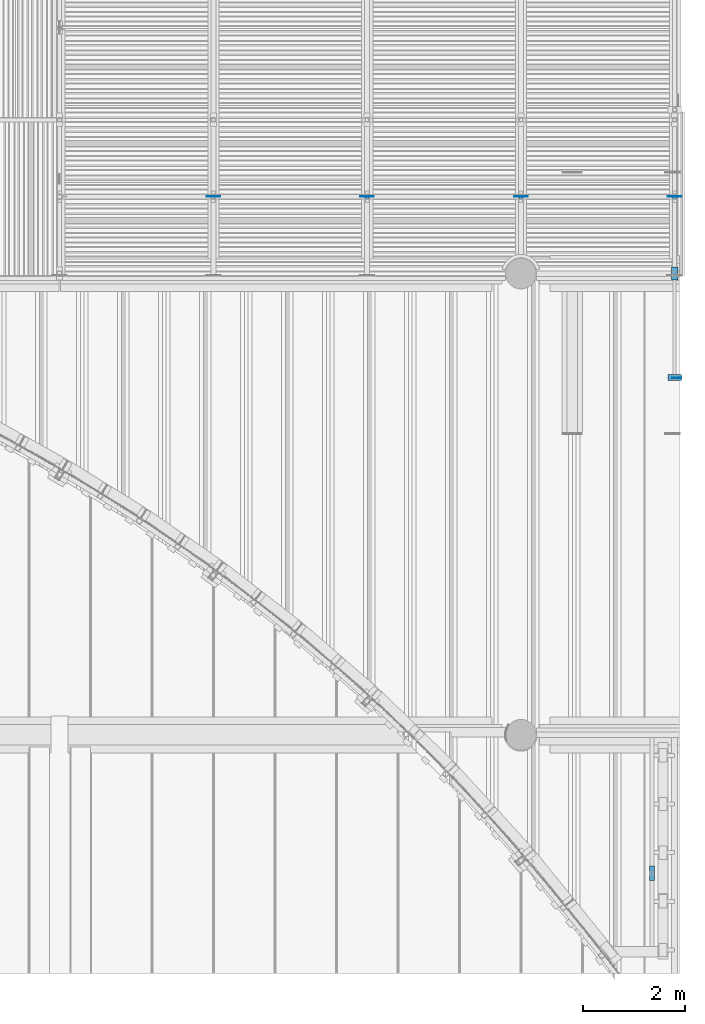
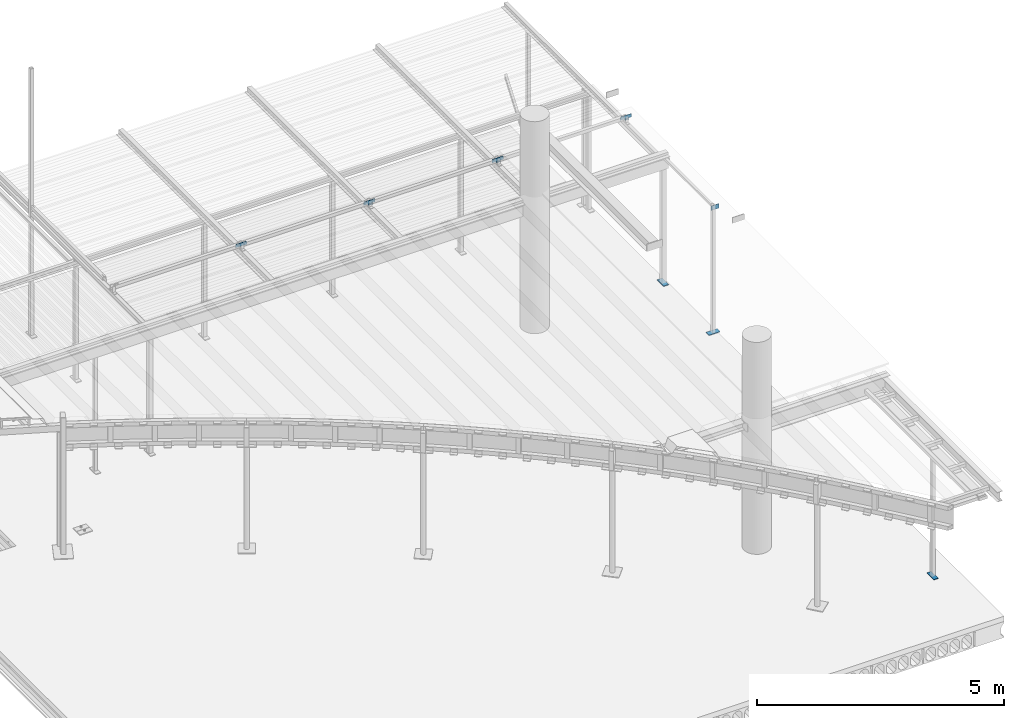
# One storey, part 8 of 98: 11 columns.
"""IFC2X3 building model written with IfcOpenShell, lengths in millimetres."""

from ifc_helpers import new_model, entity, si_unit, converted_unit, derived_unit, direction, frame, origin_with_axes, place, context, subcontext, project, spatial, faceted_brep, material, type_object, element, save


model = new_model("IFC2X3")

# Units and contexts
model_context = context("Model", 3, precision=0.01, world=frame((0.0, 4.29681676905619e-09, 0.0)), true_north=direction((4.01073788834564e-13, 1.0)))
plan_context = context("Plan", 3, precision=0.01, world=frame((0.0, 4.29681676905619e-09, 0.0)), true_north=direction((4.01073788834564e-13, 1.0)))
body_context = subcontext(model_context, "Body", "Model", "MODEL_VIEW")
ifc_project = project(units=[converted_unit("PLANEANGLEUNIT", "DEGREE", entity("IfcPositiveLengthMeasure", 0.0174532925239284), si_unit("PLANEANGLEUNIT", "RADIAN"), dimensions=[0, 0, 0, 0, 0, 0, 0]), si_unit("AREAUNIT", "SQUARE_METRE"), si_unit("LENGTHUNIT", "METRE", prefix="MILLI"), si_unit("MASSUNIT", "GRAM", prefix="KILO"), si_unit("POWERUNIT", "WATT"), si_unit("PRESSUREUNIT", "PASCAL"), si_unit("FORCEUNIT", "NEWTON", prefix="KILO"), si_unit("ELECTRICCURRENTUNIT", "AMPERE"), si_unit("THERMODYNAMICTEMPERATUREUNIT", "DEGREE_CELSIUS"), si_unit("TIMEUNIT", "SECOND"), si_unit("VOLUMEUNIT", "CUBIC_METRE"), derived_unit("LINEARVELOCITYUNIT", [(si_unit("LENGTHUNIT", "METRE"), 1), (si_unit("TIMEUNIT", "SECOND"), -1)]), derived_unit("VOLUMETRICFLOWRATEUNIT", [(si_unit("VOLUMEUNIT", "CUBIC_METRE"), 1), (si_unit("TIMEUNIT", "SECOND"), -1)]), derived_unit("THERMALTRANSMITTANCEUNIT", [(si_unit("POWERUNIT", "WATT"), 1), (si_unit("THERMODYNAMICTEMPERATUREUNIT", "KELVIN"), -1), (si_unit("AREAUNIT", "SQUARE_METRE"), -1)])], contexts=[model_context, plan_context])

# Site, building, storey
site_placement = place(None, frame((0.0, -4.29681676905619e-09, 0.0), z_axis=(0.0, 0.0, 1.0), x_axis=(1.0, 0.0, 0.0)))
site = spatial("IfcSite", under=ifc_project, at=site_placement, Name="Gardermoen", CompositionType="ELEMENT")
building_placement = place(site_placement, frame((0.0, 4.29681676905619e-09, 0.0), z_axis=(0.0, 0.0, 1.0), x_axis=(1.0, 0.0, 0.0)))
building = spatial("IfcBuilding", under=site, at=building_placement, Name="TS", CompositionType="ELEMENT")
storey_placement = place(building_placement, origin_with_axes())
storey = spatial("IfcBuildingStorey", under=building, at=storey_placement, Name="D", CompositionType="ELEMENT", Elevation=0.0)

# Columns
ifc_material_1 = material(Name="STEEL/S355")
column_type_1 = type_object("IfcColumnType", Name="PL10*80", PredefinedType="NOTDEFINED")
for number, where, z_axis, x_axis in (
    (1, (523130.0, 416000.0, 207159.999854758), (-0.999999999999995, -9.99999902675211e-08, 0.0), (0.0, 0.0, -1.0)),
    (2, (526130.0, 416000.0, 207159.999854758), (-0.999999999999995, -9.99999902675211e-08, 0.0), (0.0, 0.0, -1.0)),
    (3, (529130.0, 416000.0, 207159.999854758), (-0.999999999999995, -9.99999902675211e-08, 0.0), (0.0, 0.0, -1.0)),
    (4, (532130.0, 416000.0, 207159.999854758), (-0.999999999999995, -9.99999902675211e-08, 0.0), (0.0, 0.0, -1.0)),
):
    element("IfcColumn", number, at=place(storey_placement, frame(where, z_axis=z_axis, x_axis=x_axis)), inside=storey, type_object=column_type_1, material=ifc_material_1, Name="STÅLSØYLE", ObjectType="PL10*80", context=body_context, shape_type="Brep", body=[
        faceted_brep([(0.0, -5.0, 0.0), (0.0, -5.0, 260.0), (0.0, 5.0, 260.0), (0.0, 5.0, 0.0), (80.0, -5.0, 260.0), (80.0, 5.0, 260.0), (80.0, -5.00000000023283, 1.16415321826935e-10), (80.0, 5.00000000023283, -2.3283064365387e-10)], [[[0, 1, 2, 3]], [[1, 4, 5, 2]], [[4, 6, 7, 5]], [[6, 0, 3, 7]], [[5, 7, 3, 2]], [[6, 4, 1, 0]]]),
    ])
ifc_material_2 = material(Name="STEEL/S355J0")
column_type_2 = type_object("IfcColumnType", Name="PL15*260", PredefinedType="NOTDEFINED")
for number, where, z_axis, x_axis in (
    (5, (531999.999317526, 412529.501660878, 203937.5), (1.0, 0.0, 0.0), (0.0, -1.0, 0.0)),
    (6, (532062.488435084, 414499.981078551, 203937.5), (9.99999902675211e-08, -0.999999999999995, 0.0), (-0.999999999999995, -9.99999902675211e-08, 0.0)),
):
    element("IfcColumn", number, at=place(storey_placement, frame(where, z_axis=z_axis, x_axis=x_axis)), inside=storey, type_object=column_type_2, material=ifc_material_2, Name="STÅLSØYLE", ObjectType="PL15*260", context=body_context, shape_type="Brep", body=[
        faceted_brep([(0.0, 7.5, -130.0), (0.0, 7.5, 130.0), (120.0, 7.50000000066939, 130.000000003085), (120.0, 7.49999999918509, -130.000000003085), (0.0, -7.5, 130.0), (120.0, -7.4999999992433, 130.000000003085), (0.0, -7.5, -130.0), (120.0, -7.50000000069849, -130.000000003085)], [[[0, 1, 2, 3]], [[1, 4, 5, 2]], [[4, 6, 7, 5]], [[6, 0, 3, 7]], [[5, 7, 3, 2]], [[6, 4, 1, 0]]]),
    ])
column_type_3 = type_object("IfcColumnType", Name="PL10*280", PredefinedType="NOTDEFINED")
column_1_placement = place(storey_placement, frame((531605.0, 402800.0, 203935.0), z_axis=(9.99999902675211e-08, -0.999999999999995, 0.0), x_axis=(-0.999999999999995, -9.99999902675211e-08, 0.0)))
element("IfcColumn", 7, at=column_1_placement, inside=storey, type_object=column_type_3, material=ifc_material_1, Name="STÅLSØYLE", ObjectType="PL10*280", context=body_context, shape_type="Brep", body=[
    faceted_brep([(-2.27009877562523e-09, 5.0, -140.000000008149), (2.3283064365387e-10, 5.0, 140.0), (100.0, 5.0, 140.0), (100.0, 5.0, -140.0), (2.3283064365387e-10, -5.0, 140.0), (100.0, -5.0, 140.0), (-2.27009877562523e-09, -5.0, -140.000000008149), (100.0, -5.0, -140.0)], [[[0, 1, 2, 3]], [[1, 4, 5, 2]], [[4, 6, 7, 5]], [[6, 0, 3, 7]], [[5, 7, 3, 2]], [[6, 4, 1, 0]]]),
])
column_type_4 = type_object("IfcColumnType", Name="PL10*110", PredefinedType="NOTDEFINED")
column_2_placement = place(storey_placement, frame((532050.001659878, 412461.499345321, 207080.001960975), z_axis=(0.0, 0.0, -1.0), x_axis=(-0.999999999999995, -9.99999902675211e-08, 0.0)))
element("IfcColumn", 8, at=column_2_placement, inside=storey, type_object=column_type_4, material=ifc_material_1, Name="STÅLSØYLE", ObjectType="PL10*110", context=body_context, shape_type="Brep", body=[
    faceted_brep([(0.0, -5.0, 0.0), (-80.0000152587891, -5.00000000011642, 0.0), (-80.0000152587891, 4.99999999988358, 0.0), (0.0, 5.0, 0.0), (-80.0000152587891, -5.00000000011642, 110.0), (-80.0000152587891, 4.99999999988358, 110.0), (100.0, -5.0, 110.0), (100.0, 5.0, 110.0), (99.9999999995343, -4.99999999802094, 7.21774995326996e-09), (99.9999999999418, 5.00000000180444, 6.81029632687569e-09)], [[[0, 1, 2, 3]], [[1, 4, 5, 2]], [[4, 6, 7, 5]], [[6, 8, 9, 7]], [[8, 0, 3, 9]], [[5, 7, 9, 3, 2]], [[8, 6, 4, 1, 0]]]),
])
column_type_5 = type_object("IfcColumnType", Name="80*80", PredefinedType="NOTDEFINED")
for number, where, z_axis, x_axis in (
    (9, (532000.0, 416000.0, 207075.0), (0.0, -1.0, 0.0), (0.0, 0.0, 1.0)),
    (10, (526000.0, 416000.0, 207075.0), (0.0, -1.0, 0.0), (0.0, 0.0, 1.0)),
    (11, (529000.0, 416000.0, 207075.000095), (0.0, -1.0, 0.0), (0.0, 0.0, 1.0)),
):
    element("IfcColumn", number, at=place(storey_placement, frame(where, z_axis=z_axis, x_axis=x_axis)), inside=storey, type_object=column_type_5, material=ifc_material_1, Name="STÅLSØYLE", ObjectType="80*80", context=body_context, shape_type="Brep", body=[
        faceted_brep([(0.0, 40.0, -40.0), (0.0, 40.0, 40.0), (5.00337743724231, 40.0, 40.0), (5.00337743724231, 40.0, -40.0), (0.0, -40.0, 40.0), (5.00337743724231, -40.0, 40.0), (0.0, -40.0, -40.0), (5.00337743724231, -40.0, -40.0)], [[[0, 1, 2, 3]], [[1, 4, 5, 2]], [[4, 6, 7, 5]], [[6, 0, 3, 7]], [[5, 7, 3, 2]], [[6, 4, 1, 0]]]),
    ])

save(model, "model.ifc")
